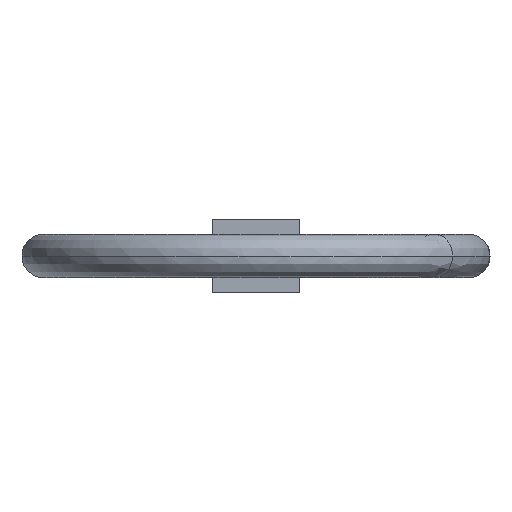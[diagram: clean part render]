
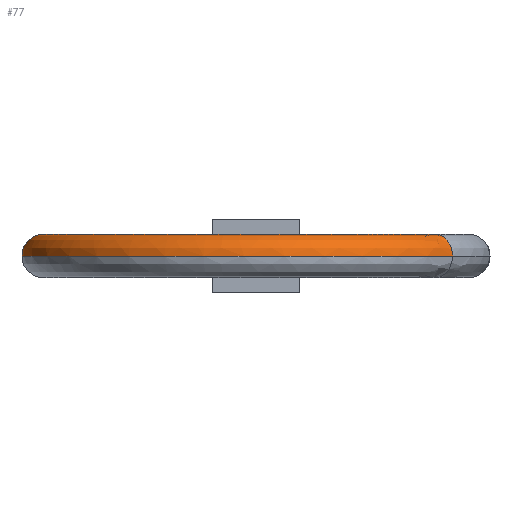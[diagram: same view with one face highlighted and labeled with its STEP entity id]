
A CAD part, left-side view. The second image highlights one B-rep face of the part: STEP entity #77.
In plain terms, the highlighted free-form (B-spline) face has degree [3, 3] with [7, 4] control points.
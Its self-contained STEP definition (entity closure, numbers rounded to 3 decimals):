
#27 = EDGE_CURVE ( 'NONE', #69, #244, #868, .T. ) ;
#49 = VERTEX_POINT ( 'NONE', #1143 ) ;
#69 = VERTEX_POINT ( 'NONE', #334 ) ;
#77 = ADVANCED_FACE ( 'NONE', ( #362 ), #363, .F. ) ;
#108 = ORIENTED_EDGE ( 'NONE', *, *, #349, .F. ) ;
#244 = VERTEX_POINT ( 'NONE', #824 ) ;
#265 =( BOUNDED_CURVE ( )  B_SPLINE_CURVE ( 3, ( #266, #267, #268, #269, #270, #271, #272 ),
 .UNSPECIFIED., .F., .T. ) 
 B_SPLINE_CURVE_WITH_KNOTS ( ( 4, 3, 4 ),
 ( 0.021, 0.5, 0.979 ),
 .UNSPECIFIED. ) 
 CURVE ( )  GEOMETRIC_REPRESENTATION_ITEM ( )  RATIONAL_B_SPLINE_CURVE ( ( 0.974, 0.79, 0.799, 1., 0.799, 0.79, 0.974 ) ) 
 REPRESENTATION_ITEM ( '' )  );
#266 = CARTESIAN_POINT ( 'NONE',  ( -146.348, -6.715, 0. ) ) ;
#267 = CARTESIAN_POINT ( 'NONE',  ( -146.348, -6.715, 0.442 ) ) ;
#268 = CARTESIAN_POINT ( 'NONE',  ( -146.178, -6.453, 0.75 ) ) ;
#269 = CARTESIAN_POINT ( 'NONE',  ( -145.94, -6.086, 0.75 ) ) ;
#270 = CARTESIAN_POINT ( 'NONE',  ( -145.703, -5.719, 0.75 ) ) ;
#271 = CARTESIAN_POINT ( 'NONE',  ( -145.533, -5.456, 0.442 ) ) ;
#272 = CARTESIAN_POINT ( 'NONE',  ( -145.533, -5.456, 0. ) ) ;
#334 = CARTESIAN_POINT ( 'NONE',  ( -138.467, 5.456, 0. ) ) ;
#349 = EDGE_CURVE ( 'NONE', #1385, #244, #954, .T. ) ;
#362 = FACE_OUTER_BOUND ( 'NONE', #1201, .T. ) ;
#363 =( BOUNDED_SURFACE ( )  B_SPLINE_SURFACE ( 3, 3, ( 
 ( #364, #365, #366, #367 ),
 ( #368, #369, #370, #371 ),
 ( #372, #373, #374, #375 ),
 ( #376, #377, #378, #379 ),
 ( #380, #381, #382, #383 ),
 ( #387, #388, #389, #390 ),
 ( #391, #392, #393, #394 ) ),
 .UNSPECIFIED., .F., .F., .T. ) 
 B_SPLINE_SURFACE_WITH_KNOTS ( ( 4, 3, 4 ),
 ( 4, 4 ),
 ( 0.021, 0.5, 0.979 ),
 ( 0., 1. ),
 .UNSPECIFIED. ) 
 GEOMETRIC_REPRESENTATION_ITEM ( )  RATIONAL_B_SPLINE_SURFACE ( (
 ( 0.974, 0.325, 0.325, 0.974),
 ( 0.79, 0.263, 0.263, 0.79),
 ( 0.799, 0.266, 0.266, 0.799),
 ( 1., 0.333, 0.333, 1.),
 ( 0.799, 0.266, 0.266, 0.799),
 ( 0.79, 0.263, 0.263, 0.79),
 ( 0.974, 0.325, 0.325, 0.974) ) ) 
 REPRESENTATION_ITEM ( '' )  SURFACE ( )  );
#364 = CARTESIAN_POINT ( 'NONE',  ( -137.652, 6.715, 0. ) ) ;
#365 = CARTESIAN_POINT ( 'NONE',  ( -151.083, 15.411, 0. ) ) ;
#366 = CARTESIAN_POINT ( 'NONE',  ( -159.779, 1.98, 0. ) ) ;
#367 = CARTESIAN_POINT ( 'NONE',  ( -146.348, -6.715, 0. ) ) ;
#368 = CARTESIAN_POINT ( 'NONE',  ( -137.652, 6.715, 0.442 ) ) ;
#369 = CARTESIAN_POINT ( 'NONE',  ( -151.083, 15.411, 0.442 ) ) ;
#370 = CARTESIAN_POINT ( 'NONE',  ( -159.779, 1.98, 0.442 ) ) ;
#371 = CARTESIAN_POINT ( 'NONE',  ( -146.348, -6.715, 0.442 ) ) ;
#372 = CARTESIAN_POINT ( 'NONE',  ( -137.822, 6.453, 0.75 ) ) ;
#373 = CARTESIAN_POINT ( 'NONE',  ( -150.728, 14.808, 0.75 ) ) ;
#374 = CARTESIAN_POINT ( 'NONE',  ( -159.083, 1.903, 0.75 ) ) ;
#375 = CARTESIAN_POINT ( 'NONE',  ( -146.178, -6.453, 0.75 ) ) ;
#376 = CARTESIAN_POINT ( 'NONE',  ( -138.06, 6.086, 0.75 ) ) ;
#377 = CARTESIAN_POINT ( 'NONE',  ( -150.232, 13.966, 0.75 ) ) ;
#378 = CARTESIAN_POINT ( 'NONE',  ( -158.112, 1.794, 0.75 ) ) ;
#379 = CARTESIAN_POINT ( 'NONE',  ( -145.94, -6.086, 0.75 ) ) ;
#380 = CARTESIAN_POINT ( 'NONE',  ( -138.297, 5.719, 0.75 ) ) ;
#381 = CARTESIAN_POINT ( 'NONE',  ( -149.735, 13.124, 0.75 ) ) ;
#382 = CARTESIAN_POINT ( 'NONE',  ( -157.141, 1.686, 0.75 ) ) ;
#383 = CARTESIAN_POINT ( 'NONE',  ( -145.703, -5.719, 0.75 ) ) ;
#387 = CARTESIAN_POINT ( 'NONE',  ( -138.467, 5.456, 0.442 ) ) ;
#388 = CARTESIAN_POINT ( 'NONE',  ( -149.38, 12.521, 0.442 ) ) ;
#389 = CARTESIAN_POINT ( 'NONE',  ( -156.445, 1.609, 0.442 ) ) ;
#390 = CARTESIAN_POINT ( 'NONE',  ( -145.533, -5.456, 0.442 ) ) ;
#391 = CARTESIAN_POINT ( 'NONE',  ( -138.467, 5.456, 0. ) ) ;
#392 = CARTESIAN_POINT ( 'NONE',  ( -149.38, 12.521, 0. ) ) ;
#393 = CARTESIAN_POINT ( 'NONE',  ( -156.445, 1.609, 0. ) ) ;
#394 = CARTESIAN_POINT ( 'NONE',  ( -145.533, -5.456, 0. ) ) ;
#712 = ORIENTED_EDGE ( 'NONE', *, *, #27, .T. ) ;
#821 = EDGE_CURVE ( 'NONE', #1385, #49, #265, .T. ) ;
#824 = CARTESIAN_POINT ( 'NONE',  ( -137.652, 6.715, 0. ) ) ;
#868 = CIRCLE ( 'NONE', #869, 0.75 ) ;
#869 = AXIS2_PLACEMENT_3D ( 'NONE', #870, #871, #872 ) ;
#870 = CARTESIAN_POINT ( 'NONE',  ( -138.06, 6.086, 0. ) ) ;
#871 = DIRECTION ( 'NONE',  ( -0.839, 0.543, 0. ) ) ;
#872 = DIRECTION ( 'NONE',  ( -0.543, -0.839, 0. ) ) ;
#902 = CARTESIAN_POINT ( 'NONE',  ( -146.348, -6.715, 0. ) ) ;
#954 = CIRCLE ( 'NONE', #955, 8. ) ;
#955 = AXIS2_PLACEMENT_3D ( 'NONE', #958, #959, #960 ) ;
#958 = CARTESIAN_POINT ( 'NONE',  ( -142., 0., 0. ) ) ;
#959 = DIRECTION ( 'NONE',  ( 0., 0., -1. ) ) ;
#960 = DIRECTION ( 'NONE',  ( -0.543, -0.839, 0. ) ) ;
#1002 = CIRCLE ( 'NONE', #1003, 6.5 ) ;
#1003 = AXIS2_PLACEMENT_3D ( 'NONE', #1004, #1005, #1006 ) ;
#1004 = CARTESIAN_POINT ( 'NONE',  ( -142., 0., 0. ) ) ;
#1005 = DIRECTION ( 'NONE',  ( 0., 0., 1. ) ) ;
#1006 = DIRECTION ( 'NONE',  ( -0.543, -0.839, 0. ) ) ;
#1143 = CARTESIAN_POINT ( 'NONE',  ( -145.533, -5.456, 0. ) ) ;
#1201 = EDGE_LOOP ( 'NONE', ( #108, #1384, #1431, #712 ) ) ;
#1384 = ORIENTED_EDGE ( 'NONE', *, *, #821, .T. ) ;
#1385 = VERTEX_POINT ( 'NONE', #902 ) ;
#1395 = EDGE_CURVE ( 'NONE', #69, #49, #1002, .T. ) ;
#1431 = ORIENTED_EDGE ( 'NONE', *, *, #1395, .F. ) ;
